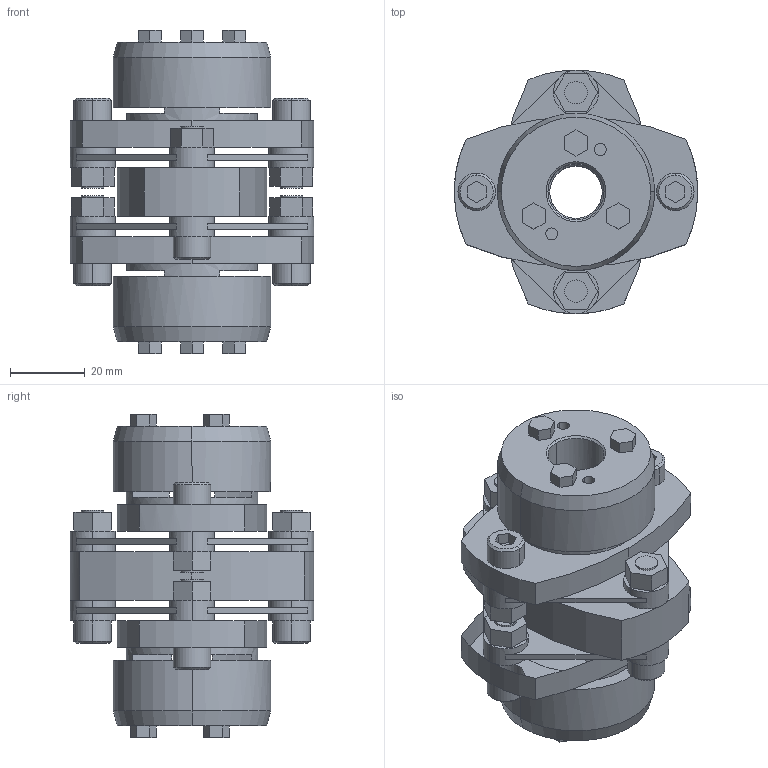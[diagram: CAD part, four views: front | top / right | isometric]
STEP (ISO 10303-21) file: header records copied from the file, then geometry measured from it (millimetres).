
FILE_DESCRIPTION((''),'2;1');
FILE_NAME('LCD-65T7-14×14.stp','2015-10-28T08:53:06',(''),(''),'AutoCAD STEP 2000i','AutoCAD 2000i',', , ');
FILE_SCHEMA(('CONFIG_CONTROL_DESIGN'));
Length unit declared in the file: millimetre
Products named in the file (7): LCD-65T7-14×14; 忣兜1; LC65T7-T014-1; LC65T7-T014; LC65T7-T015-1; LC65T7-T015; LCD65-ITA
Assembly tree (6 placements, depth 2):
  LCD-65T7-14×14
    忣兜1
    LC65T7-T014-1
    LC65T7-T014
    LC65T7-T015-1
    LC65T7-T015
    LCD65-ITA
Bounding box: 65 x 65 x 86.4 mm (x, y, z)
Volume: 111551.8 mm3; surface area: 39586.8 mm2
Topology: 1 solids, 1 shells, 296 faces, 784 edges, 528 vertices
Faces by surface type: plane 176, cylinder 96, cone 24
Entity records: 9419 total; most frequent: DIRECTION 1670, CARTESIAN_POINT 1601, ORIENTED_EDGE 1540, EDGE_CURVE 770, AXIS2_PLACEMENT_3D 583, VECTOR 504, LINE 504, VERTEX_POINT 502
